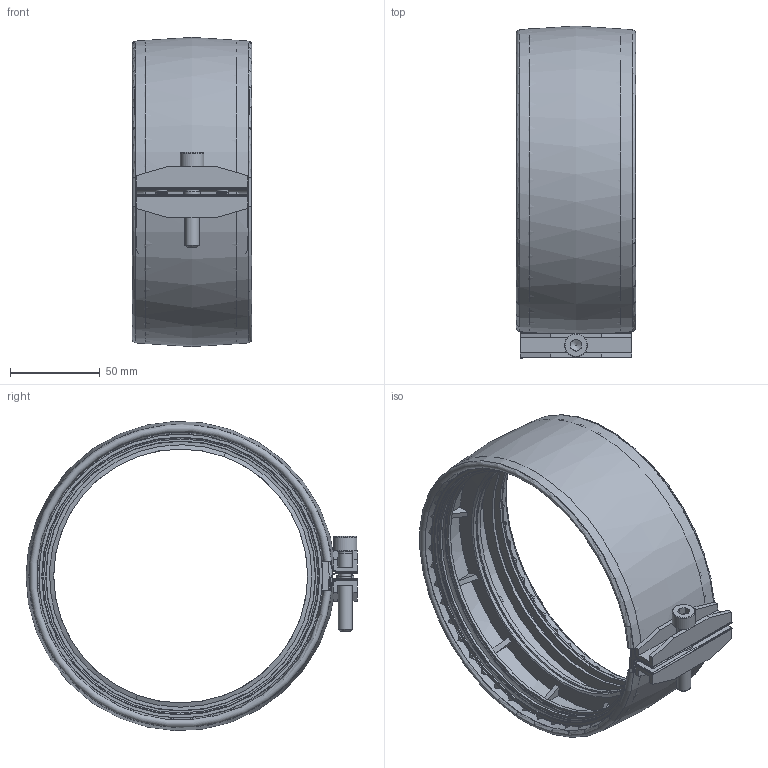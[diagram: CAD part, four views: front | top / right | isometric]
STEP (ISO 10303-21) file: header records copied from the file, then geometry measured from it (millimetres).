
FILE_DESCRIPTION(/* description */ (''),/* implementation_level */ '2;1');
FILE_NAME(/* name */ 'H:\Geberit-Teile\Export\Spannverbinder_neu\stp\315003.stp',/* time_stamp */ '2017-09-20T09:29:30+02:00',/* author */ ('seihe2'),/* organization */ (''),/* preprocessor_version */ 'ST-DEVELOPER v15.2',/* originating_system */ 'Autodesk Inventor 2014',/* authorisation */ '');
FILE_SCHEMA (('AUTOMOTIVE_DESIGN { 1 0 10303 214 3 1 1 }'));
Length unit declared in the file: millimetre
Products named in the file (1): 315003
Bounding box: 66.4 x 184.75 x 172.03 mm (x, y, z)
Volume: 168446.3 mm3; surface area: 203885.6 mm2
Topology: 5 solids, 5 shells, 531 faces, 1520 edges, 1013 vertices
Faces by surface type: plane 331, bspline 88, cylinder 72, torus 20, cone 20
Full cylindrical faces by diameter (mm): 5.5 x4, 6.5 x6, 6.647 x1, 7.805 x1, 8 x1, 8.5 x1, 9.3 x1, 10.4 x4, 13 x1, 141.305 x1, 142.5 x1, 149.847 x2, 150.247 x2, 153.974 x4, 154.63 x2, 158.939 x2, 161.227 x2, 164.617 x2, 169 x1
Entity records: 19504 total; most frequent: CARTESIAN_POINT 5730, ORIENTED_EDGE 2872, DIRECTION 2665, EDGE_CURVE 1436, AXIS2_PLACEMENT_3D 1058, VERTEX_POINT 988, EDGE_LOOP 620, LINE 549
